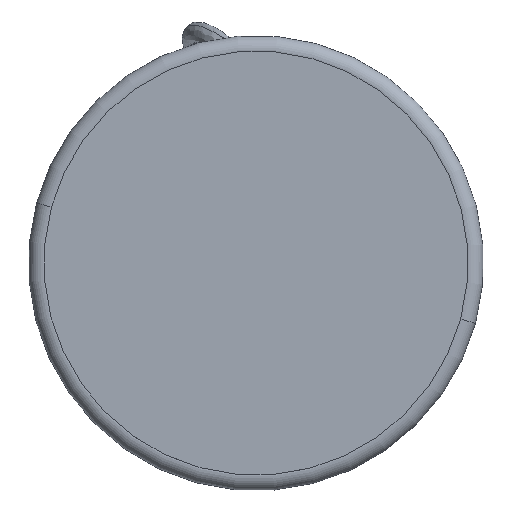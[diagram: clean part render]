
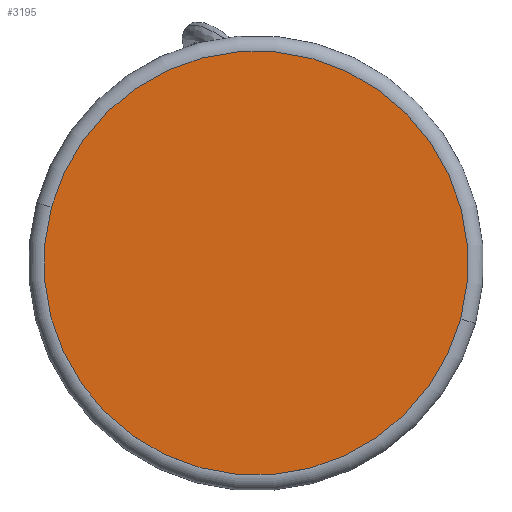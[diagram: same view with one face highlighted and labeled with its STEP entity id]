
A CAD part, top view. The second image highlights one B-rep face of the part: STEP entity #3195.
In plain terms, the highlighted planar face has unit normal (0, 0, 1) as drawn and (0, 0, -1) by its records, which use the part's own axes.
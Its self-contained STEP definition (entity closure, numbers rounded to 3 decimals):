
#16 = AXIS2_PLACEMENT_3D ( 'NONE', #388, #2194, #954 ) ;
#18 = VERTEX_POINT ( 'NONE', #861 ) ;
#107 = FACE_OUTER_BOUND ( 'NONE', #2628, .T. ) ;
#388 = CARTESIAN_POINT ( 'NONE',  ( 0., 0., -3.85 ) ) ;
#861 = CARTESIAN_POINT ( 'NONE',  ( -39., 0., -3.85 ) ) ;
#885 = DIRECTION ( 'NONE',  ( 1., 0., 0. ) ) ;
#954 = DIRECTION ( 'NONE',  ( 1., 0., 0. ) ) ;
#977 = ORIENTED_EDGE ( 'NONE', *, *, #1465, .F. ) ;
#1014 = EDGE_CURVE ( 'NONE', #1733, #18, #2894, .T. ) ;
#1092 = AXIS2_PLACEMENT_3D ( 'NONE', #1856, #1912, #885 ) ;
#1118 = CARTESIAN_POINT ( 'NONE',  ( 39., 0., -3.85 ) ) ;
#1409 = ORIENTED_EDGE ( 'NONE', *, *, #1014, .F. ) ;
#1435 = DIRECTION ( 'NONE',  ( 0., 0., 1. ) ) ;
#1465 = EDGE_CURVE ( 'NONE', #18, #1733, #1953, .T. ) ;
#1705 = DIRECTION ( 'NONE',  ( 1., 0., 0. ) ) ;
#1733 = VERTEX_POINT ( 'NONE', #1118 ) ;
#1856 = CARTESIAN_POINT ( 'NONE',  ( 0., 0., -3.85 ) ) ;
#1912 = DIRECTION ( 'NONE',  ( 0., 0., 1. ) ) ;
#1953 = CIRCLE ( 'NONE', #2530, 39. ) ;
#2166 = PLANE ( 'NONE',  #1092 ) ;
#2194 = DIRECTION ( 'NONE',  ( 0., 0., 1. ) ) ;
#2277 = CARTESIAN_POINT ( 'NONE',  ( 0., 0., -3.85 ) ) ;
#2530 = AXIS2_PLACEMENT_3D ( 'NONE', #2277, #1435, #1705 ) ;
#2628 = EDGE_LOOP ( 'NONE', ( #977, #1409 ) ) ;
#2894 = CIRCLE ( 'NONE', #16, 39. ) ;
#3195 = ADVANCED_FACE ( 'NONE', ( #107 ), #2166, .F. ) ;
